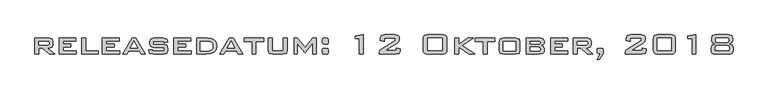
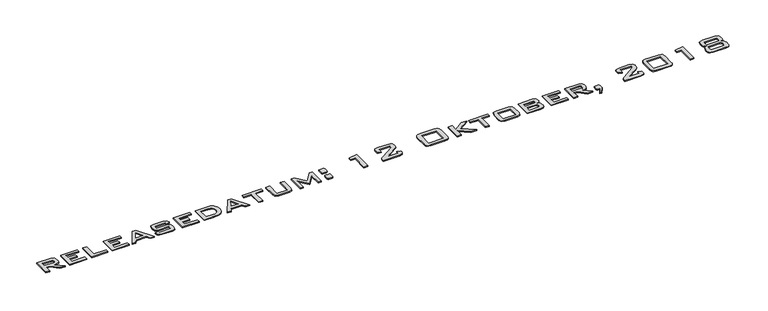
"""IFC4 building model written with IfcOpenShell, lengths in millimetres: flow terminal geometry, ondertitel : versie."""

from ifc_helpers import new_model, si_unit, origin, origin_with_axes, place, context, project, spatial, polyline, outline, extrude, source, transform, mapped, element, save


def flow_terminal_0ae296fa(model_context):
    return source(origin(), model_context, "Body", "SweptSolid", [
        extrude(outline(polyline([(-295.5347853, 18.5696186), (-295.5347853, 101.316023), (-221.428821, 101.316023), (-207.1279466, 97.1850097), (-202.6973559, 83.7197983), (-202.6973559, 68.2994509), (-207.1279466, 54.9603773), (-221.428821, 50.8608984), (-232.6550862, 50.8608984), (-194.1830537, 18.5696186), (-222.6271302, 18.5696186), (-256.6843393, 50.8608984), (-275.3527354, 50.8608984), (-275.3527354, 18.5696186), (-295.5347853, 18.5696186)]), holes=[polyline([(-229.9115888, 85.1703832), (-275.3527354, 85.1703832), (-275.3527354, 67.0065383), (-229.9115888, 67.0065383), (-222.8005697, 68.2206147), (-220.8612008, 72.3043264), (-220.8612008, 79.8725951), (-222.8005697, 83.9563067), (-229.9115888, 85.1703832)])]), origin_with_axes(), (0.0, 0.0, 1.0), 5.0),
        extrude(outline(polyline([(-170.4060762, 18.5696186), (-170.4060762, 101.316023), (-83.6232618, 101.316023), (-83.6232618, 87.1885881), (-150.2240263, 87.1885881), (-150.2240263, 71.0429483), (-109.8599266, 71.0429483), (-109.8599266, 54.8973084), (-150.2240263, 54.8973084), (-150.2240263, 34.7152585), (-81.6050568, 34.7152585), (-81.6050568, 18.5696186), (-170.4060762, 18.5696186)])), origin_with_axes(), (0.0, 0.0, 1.0), 5.0),
        extrude(outline(polyline([(-53.350187, 18.5696186), (-53.350187, 101.316023), (-33.1681372, 101.316023), (-33.1681372, 34.7152585), (31.4144224, 34.7152585), (31.4144224, 18.5696186), (-53.350187, 18.5696186)])), origin_with_axes(), (0.0, 0.0, 1.0), 5.0),
        extrude(outline(polyline([(53.6146772, 18.5696186), (53.6146772, 101.316023), (140.3974916, 101.316023), (140.3974916, 87.1885881), (73.7967271, 87.1885881), (73.7967271, 71.0429483), (114.1608268, 71.0429483), (114.1608268, 54.8973084), (73.7967271, 54.8973084), (73.7967271, 34.7152585), (142.4156966, 34.7152585), (142.4156966, 18.5696186), (53.6146772, 18.5696186)])), origin_with_axes(), (0.0, 0.0, 1.0), 5.0),
        extrude(outline(polyline([(158.5613364, 18.5696186), (207.1243939, 101.316023), (226.2973413, 101.316023), (275.6172256, 18.5696186), (253.227764, 18.5696186), (242.9159979, 34.7152585), (188.8028768, 34.7152585), (178.4911107, 18.5696186), (158.5613364, 18.5696186)]), holes=[polyline([(197.2856446, 50.8608984), (234.8116435, 50.8608984), (215.7332995, 86.0218134), (197.2856446, 50.8608984)])]), origin_with_axes(), (0.0, 0.0, 1.0), 5.0),
        extrude(outline(polyline([(372.4910649, 85.1703832), (315.9813253, 85.1703832), (315.9813253, 69.0247433), (369.4637574, 69.0247433), (386.3189225, 64.8779627), (390.6549097, 49.094969), (390.6549097, 38.1209794), (386.2243191, 22.6690975), (369.4637574, 18.5696186), (316.170532, 18.5696186), (298.4324023, 22.6690975), (294.9439034, 28.5818074), (293.7810705, 38.1209794), (293.7810705, 40.0130466), (311.9449153, 42.7880785), (311.9449153, 34.7152585), (372.4910649, 34.7152585), (372.4910649, 52.8791034), (319.4816496, 52.8791034), (302.2953727, 57.0101167), (297.8174804, 72.3358608), (297.8174804, 80.913232), (302.2953727, 96.9642685), (319.4816496, 101.316023), (368.2339137, 101.316023), (385.8932074, 97.1219408), (389.4644842, 91.3196015), (390.6549097, 82.3007479), (390.6549097, 80.4717497), (372.4910649, 77.0975632), (372.4910649, 85.1703832)])), origin_with_axes(), (0.0, 0.0, 1.0), 5.0),
        extrude(outline(polyline([(422.9461895, 18.5696186), (422.9461895, 101.316023), (509.7290039, 101.316023), (509.7290039, 87.1885881), (443.1282394, 87.1885881), (443.1282394, 71.0429483), (483.4923391, 71.0429483), (483.4923391, 54.8973084), (443.1282394, 54.8973084), (443.1282394, 34.7152585), (511.7472089, 34.7152585), (511.7472089, 18.5696186), (422.9461895, 18.5696186)])), origin_with_axes(), (0.0, 0.0, 1.0), 5.0),
        extrude(outline(polyline([(540.0020787, 18.5696186), (540.0020787, 101.316023), (595.6919225, 101.316023), (616.7096353, 98.6513618), (632.2088189, 90.657378), (641.7637582, 77.7203687), (644.9487379, 60.2266309), (641.5706096, 42.0115426), (631.4362248, 28.9917553), (614.474631, 21.1751528), (590.6148756, 18.5696186), (540.0020787, 18.5696186)]), holes=[polyline([(560.1841285, 34.7152585), (586.2946555, 34.7152585), (604.466384, 36.2092032), (616.2208513, 40.6910374), (622.6302289, 48.7126138), (624.7666881, 60.8257855), (622.9928751, 71.5553831), (617.6714361, 79.1473027), (608.6762335, 83.664613), (595.8811292, 85.1703832), (560.1841285, 85.1703832), (560.1841285, 34.7152585)])]), origin_with_axes(), (0.0, 0.0, 1.0), 5.0),
        extrude(outline(polyline([(661.0943778, 18.5696186), (709.6574352, 101.316023), (728.8303826, 101.316023), (778.1502669, 18.5696186), (755.7608054, 18.5696186), (745.4490393, 34.7152585), (691.3359181, 34.7152585), (681.024152, 18.5696186), (661.0943778, 18.5696186)]), holes=[polyline([(699.8186859, 50.8608984), (737.3446849, 50.8608984), (718.2663409, 86.0218134), (699.8186859, 50.8608984)])]), origin_with_axes(), (0.0, 0.0, 1.0), 5.0),
        extrude(outline(polyline([(846.7692364, 85.1703832), (846.7692364, 18.5696186), (826.5871866, 18.5696186), (826.5871866, 85.1703832), (786.2230869, 85.1703832), (786.2230869, 101.316023), (887.1333361, 101.316023), (887.1333361, 85.1703832), (846.7692364, 85.1703832)])), origin_with_axes(), (0.0, 0.0, 1.0), 5.0),
        extrude(outline(polyline([(931.5338458, 101.316023), (931.5338458, 34.7152585), (988.0435854, 34.7152585), (988.0435854, 101.316023), (1008.2256353, 101.316023), (1008.2256353, 38.783203), (1003.7319757, 22.8583042), (986.624535, 18.5696186), (932.9528962, 18.5696186), (915.8139211, 22.8110026), (911.351796, 38.783203), (911.351796, 101.316023), (931.5338458, 101.316023)])), origin_with_axes(), (0.0, 0.0, 1.0), 5.0),
        extrude(outline(polyline([(1044.553325, 18.5696186), (1044.553325, 101.316023), (1060.6989649, 101.316023), (1101.4099436, 52.2168799), (1141.4586988, 101.316023), (1157.5728042, 101.316023), (1157.5728042, 18.5696186), (1139.4089593, 18.5696186), (1139.4089593, 75.5208406), (1102.2613738, 28.5029713), (1098.3195672, 28.5029713), (1060.6989649, 74.1648591), (1060.6989649, 18.5696186), (1044.553325, 18.5696186)])), origin_with_axes(), (0.0, 0.0, 1.0), 5.0),
        extrude(outline(polyline([(1211.938201, 48.8426934), (1215.4700597, 48.8426934), (1219.0965218, 47.3605741), (1220.1371587, 41.6843726), (1220.1371587, 25.8225428), (1218.9861512, 19.9098329), (1211.938201, 18.5696186), (1194.531183, 18.5696186), (1190.9047209, 20.0990396), (1189.8640839, 25.8225428), (1189.8640839, 41.6843726), (1191.0150915, 47.5024792), (1198.0630417, 48.8426934), (1211.938201, 48.8426934)])), origin_with_axes(), (0.0, 0.0, 1.0), 5.0),
        extrude(outline(polyline([(1211.938201, 101.316023), (1215.4700597, 101.316023), (1219.0965218, 99.8339038), (1220.1371587, 94.1577022), (1220.1371587, 78.2958724), (1218.9861512, 72.3831625), (1211.938201, 71.0429483), (1194.531183, 71.0429483), (1190.9047209, 72.5723692), (1189.8640839, 78.2958724), (1189.8640839, 94.1577022), (1191.0150915, 99.9758088), (1198.0630417, 101.316023), (1211.938201, 101.316023)])), origin_with_axes(), (0.0, 0.0, 1.0), 5.0),
        extrude(outline(polyline([(1381.5935576, 18.5696186), (1381.5935576, 99.6762315), (1359.3933027, 99.6762315), (1359.3933027, 113.0468395), (1401.7756074, 119.4798679), (1401.7756074, 18.5696186), (1381.5935576, 18.5696186)])), origin_with_axes(), (0.0, 0.0, 1.0), 5.0),
        extrude(outline(polyline([(1490.5766268, 100.8430063), (1491.7552269, 109.8736852), (1495.2910275, 115.5222941), (1513.7544496, 119.4798679), (1564.74566, 119.4798679), (1582.7991343, 115.5222941), (1586.2876331, 109.8736852), (1587.4504661, 100.8430063), (1587.4504661, 94.5361157), (1585.148451, 83.073342), (1574.0167891, 73.6603079), (1516.3087403, 36.7334635), (1573.3230312, 36.7334635), (1573.3230312, 50.8608984), (1591.486876, 45.8784549), (1591.486876, 38.2786517), (1590.3516357, 28.7394797), (1586.9459148, 22.7637009), (1569.3181556, 18.5696186), (1484.5220118, 18.5696186), (1484.5220118, 27.7461444), (1487.5493193, 37.7741005), (1498.3025677, 45.6892481), (1567.2684162, 89.8059477), (1567.2684162, 103.334228), (1510.7586766, 103.334228), (1510.7586766, 83.1521782), (1490.5766268, 88.1661562), (1490.5766268, 100.8430063)])), origin_with_axes(), (0.0, 0.0, 1.0), 5.0),
        extrude(outline(polyline([(1710.5609702, 95.4190804), (1711.8854172, 107.0789443), (1715.8587583, 114.3712865), (1723.6083501, 118.2027226), (1736.2615493, 119.4798679), (1807.8762918, 119.4798679), (1820.5807345, 118.2027226), (1828.357919, 114.3712865), (1832.3430854, 107.0789443), (1833.6714743, 95.4190804), (1833.6714743, 41.6528382), (1832.3430854, 30.3910967), (1828.357919, 23.4101572), (1820.5807345, 19.7797533), (1807.8762918, 18.5696186), (1736.2615493, 18.5696186), (1723.6083501, 19.7797533), (1715.8587583, 23.4101572), (1711.8854172, 30.3910967), (1710.5609702, 41.6528382), (1710.5609702, 95.4190804)]), holes=[polyline([(1734.77943, 36.7334635), (1809.4530145, 36.7334635), (1809.4530145, 101.316023), (1734.77943, 101.316023), (1734.77943, 36.7334635)])]), origin_with_axes(), (0.0, 0.0, 1.0), 5.0),
        extrude(outline(polyline([(1874.035574, 18.5696186), (1874.035574, 101.316023), (1894.2176238, 101.316023), (1894.2176238, 67.8579685), (1941.9607855, 101.316023), (1970.9094133, 101.316023), (1914.2735359, 63.0016628), (1976.9640282, 18.5696186), (1945.4926442, 18.5696186), (1894.2176238, 55.9379453), (1894.2176238, 18.5696186), (1874.035574, 18.5696186)])), origin_with_axes(), (0.0, 0.0, 1.0), 5.0),
        extrude(outline(polyline([(2041.5465878, 85.1703832), (2041.5465878, 18.5696186), (2021.3645379, 18.5696186), (2021.3645379, 85.1703832), (1981.0004382, 85.1703832), (1981.0004382, 101.316023), (2081.9106875, 101.316023), (2081.9106875, 85.1703832), (2041.5465878, 85.1703832)])), origin_with_axes(), (0.0, 0.0, 1.0), 5.0),
        extrude(outline(polyline([(2104.1109423, 80.9763009), (2108.5099985, 97.0273375), (2125.6174392, 101.316023), (2189.5693097, 101.316023), (2206.724052, 97.0273375), (2211.0758065, 80.9763009), (2211.0758065, 38.3417206), (2206.6294487, 22.7163992), (2189.5693097, 18.5696186), (2125.6174392, 18.5696186), (2108.5099985, 22.7163992), (2104.1109423, 38.3417206), (2104.1109423, 80.9763009)]), holes=[polyline([(2124.2929922, 34.7152585), (2190.8937567, 34.7152585), (2190.8937567, 85.1703832), (2124.2929922, 85.1703832), (2124.2929922, 34.7152585)])]), origin_with_axes(), (0.0, 0.0, 1.0), 5.0),
        extrude(outline(polyline([(2243.3670863, 18.5696186), (2243.3670863, 101.316023), (2316.0224658, 101.316023), (2331.4743477, 97.0746391), (2336.2045156, 83.3098504), (2336.2045156, 76.1515296), (2332.3573124, 67.33765), (2321.194116, 62.6863182), (2332.262709, 57.1204873), (2336.2045156, 46.1307305), (2336.2045156, 36.0081711), (2334.6238512, 28.3886589), (2329.8818578, 22.9371404), (2310.8508155, 18.5696186), (2243.3670863, 18.5696186)]), holes=[polyline([(2307.2558879, 85.1703832), (2263.5491362, 85.1703832), (2263.5491362, 71.0429483), (2307.2558879, 71.0429483), (2314.1777003, 72.0047491), (2316.0224658, 75.3000994), (2316.0224658, 80.9763009), (2314.225002, 84.2401168), (2307.2558879, 85.1703832)]), polyline([(2307.2558879, 54.8973084), (2263.5491362, 54.8973084), (2263.5491362, 34.7152585), (2307.2558879, 34.7152585), (2314.1934675, 36.2604467), (2316.0224658, 41.7474415), (2316.0224658, 47.770522), (2314.1934675, 53.3048185), (2307.2558879, 54.8973084)])]), origin_with_axes(), (0.0, 0.0, 1.0), 5.0),
        extrude(outline(polyline([(2370.5140004, 18.5696186), (2370.5140004, 101.316023), (2457.2968147, 101.316023), (2457.2968147, 87.1885881), (2390.6960502, 87.1885881), (2390.6960502, 71.0429483), (2431.0601499, 71.0429483), (2431.0601499, 54.8973084), (2390.6960502, 54.8973084), (2390.6960502, 34.7152585), (2459.3150197, 34.7152585), (2459.3150197, 18.5696186), (2370.5140004, 18.5696186)])), origin_with_axes(), (0.0, 0.0, 1.0), 5.0),
        extrude(outline(polyline([(2487.5698895, 18.5696186), (2487.5698895, 101.316023), (2561.6758538, 101.316023), (2575.9767282, 97.1850097), (2580.4073189, 83.7197983), (2580.4073189, 68.2994509), (2575.9767282, 54.9603773), (2561.6758538, 50.8608984), (2550.4495886, 50.8608984), (2588.9216211, 18.5696186), (2560.4775446, 18.5696186), (2526.4203355, 50.8608984), (2507.7519394, 50.8608984), (2507.7519394, 18.5696186), (2487.5698895, 18.5696186)]), holes=[polyline([(2553.193086, 85.1703832), (2507.7519394, 85.1703832), (2507.7519394, 67.0065383), (2553.193086, 67.0065383), (2560.3041051, 68.2206147), (2562.243474, 72.3043264), (2562.243474, 79.8725951), (2560.3041051, 83.9563067), (2553.193086, 85.1703832)])]), origin_with_axes(), (0.0, 0.0, 1.0), 5.0),
        extrude(outline(polyline([(2632.9121829, 48.8426934), (2636.1602316, 48.8426934), (2639.8970642, 47.3605741), (2640.9534684, 41.6843726), (2640.9534684, 21.4392539), (2621.5282454, -7.6670462), (2609.9551012, -7.6670462), (2626.5737579, 22.2906841), (2615.3790271, 22.2906841), (2611.7367978, 23.8201051), (2610.6803936, 29.5436083), (2610.6803936, 41.6843726), (2611.7840995, 47.5497809), (2618.7216791, 48.8426934), (2632.9121829, 48.8426934)])), origin_with_axes(), (0.0, 0.0, 1.0), 5.0),
        extrude(outline(polyline([(2762.0457675, 100.8430063), (2763.2243677, 109.8736852), (2766.7601682, 115.5222941), (2785.2235904, 119.4798679), (2836.2148007, 119.4798679), (2854.268275, 115.5222941), (2857.7567739, 109.8736852), (2858.9196068, 100.8430063), (2858.9196068, 94.5361157), (2856.6175918, 83.073342), (2845.4859299, 73.6603079), (2787.7778811, 36.7334635), (2844.7921719, 36.7334635), (2844.7921719, 50.8608984), (2862.9560168, 45.8784549), (2862.9560168, 38.2786517), (2861.8207765, 28.7394797), (2858.4150556, 22.7637009), (2840.7872964, 18.5696186), (2755.9911526, 18.5696186), (2755.9911526, 27.7461444), (2759.0184601, 37.7741005), (2769.7717085, 45.6892481), (2838.737557, 89.8059477), (2838.737557, 103.334228), (2782.2278174, 103.334228), (2782.2278174, 83.1521782), (2762.0457675, 88.1661562), (2762.0457675, 100.8430063)])), origin_with_axes(), (0.0, 0.0, 1.0), 5.0),
        extrude(outline(polyline([(2901.3019115, 96.5543207), (2902.4608027, 107.737226), (2905.9374761, 114.6708638), (2912.6227801, 118.2776169), (2923.407563, 119.4798679), (2992.2157392, 119.4798679), (3003.0202311, 118.2776169), (3009.7015934, 114.6708638), (3013.1664414, 107.737226), (3014.3213907, 96.5543207), (3014.3213907, 42.5358028), (3013.1664414, 30.8483462), (3009.7015934, 23.5993639), (3003.0202311, 19.827055), (2992.2157392, 18.5696186), (2923.407563, 18.5696186), (2912.6227801, 19.827055), (2905.9374761, 23.5993639), (2902.4608027, 30.8483462), (2901.3019115, 42.5358028), (2901.3019115, 96.5543207)]), holes=[polyline([(2921.4839614, 36.7334635), (2994.1393409, 36.7334635), (2994.1393409, 103.334228), (2921.4839614, 103.334228), (2921.4839614, 36.7334635)])]), origin_with_axes(), (0.0, 0.0, 1.0), 5.0),
        extrude(outline(polyline([(3101.1042051, 18.5696186), (3101.1042051, 99.6762315), (3078.9039502, 99.6762315), (3078.9039502, 113.0468395), (3121.2862549, 119.4798679), (3121.2862549, 18.5696186), (3101.1042051, 18.5696186)])), origin_with_axes(), (0.0, 0.0, 1.0), 5.0),
        extrude(outline(polyline([(3288.954941, 119.4798679), (3306.4880968, 115.4907596), (3310.9975236, 100.685334), (3310.9975236, 91.2249981), (3306.9295791, 77.8859245), (3292.644472, 71.4213617), (3308.0805867, 65.2721434), (3313.0157285, 51.1762429), (3313.0157285, 40.3283911), (3311.742525, 29.8826036), (3307.9229144, 23.2682521), (3300.8316043, 19.744277), (3289.7433023, 18.5696186), (3223.2686756, 18.5696186), (3212.1803736, 19.7324516), (3205.0890635, 23.2209504), (3201.2694529, 29.8234765), (3199.9962494, 40.3283911), (3199.9962494, 51.1762429), (3204.9786929, 65.2248417), (3220.3675059, 71.4213617), (3206.1297004, 77.9805279), (3202.0144543, 91.2249981), (3202.0144543, 100.685334), (3206.5238811, 115.4907596), (3224.0570369, 119.4798679), (3288.954941, 119.4798679)]), holes=[polyline([(3280.882121, 103.334228), (3232.350598, 103.334228), (3224.2620109, 101.4106264), (3222.1965042, 93.7792888), (3222.1965042, 88.5761041), (3224.2620109, 81.0393698), (3232.350598, 79.1157682), (3280.882121, 79.1157682), (3288.7972687, 80.9920682), (3290.8154737, 88.5761041), (3290.8154737, 93.7792888), (3288.7972687, 101.4579281), (3280.882121, 103.334228)]), polyline([(3283.1210672, 62.9701283), (3229.8909107, 62.9701283), (3222.1176681, 61.1095956), (3220.1782992, 53.5097925), (3220.1782992, 46.0045927), (3222.0230647, 38.5466946), (3229.8909107, 36.7334635), (3283.1210672, 36.7334635), (3290.9416115, 38.5466946), (3292.8336787, 46.0045927), (3292.8336787, 53.5097925), (3290.8943098, 61.1095956), (3283.1210672, 62.9701283)])]), origin_with_axes(), (0.0, 0.0, 1.0), 5.0),
    ])


if __name__ == "__main__":
    model = new_model("IFC4")
    model_context = context("Model", 3, world=origin())
    ifc_project = project(units=[si_unit("LENGTHUNIT", "METRE", prefix="MILLI")], contexts=[model_context])
    site = spatial("IfcSite", under=ifc_project)
    building = spatial("IfcBuilding", under=site)
    placement = place(None, origin())
    flow_terminal_shape = flow_terminal_0ae296fa(model_context)
    element("IfcFlowTerminal", 1, ObjectType="ondertitel : versie", at=placement, inside=building, context=model_context, shape_type="MappedRepresentation", body=[
        mapped(flow_terminal_shape, transform((0.0, 0.0, 0.0), x_axis=(1.0, 0.0, 0.0), y_axis=(0.0, 1.0, 0.0), z_axis=(0.0, 0.0, 1.0))),
    ])
    save(model, "model.ifc")
